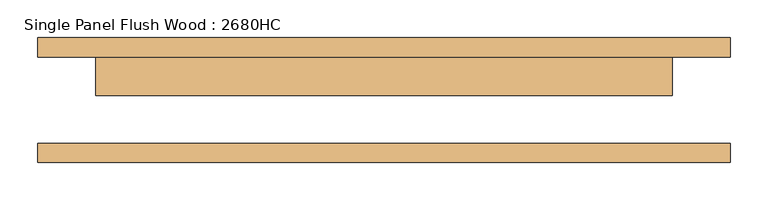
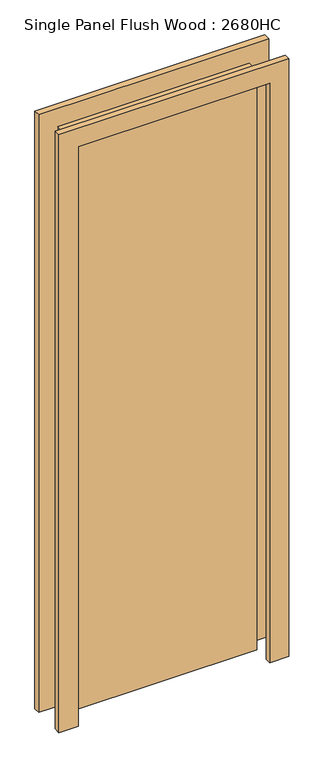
"""IFC4 building model written with IfcOpenShell, lengths in millimetres: door geometry, Single Panel Flush Wood : 2680HC."""

from ifc_helpers import new_model, si_unit, frame, origin, origin_with_axes, place, context, project, spatial, polyline, outline, extrude, source, transform, mapped, element, save


def single_panel_flush_wood_2680hc_c9b15bbd(model_context):
    return source(origin(), model_context, "Body", "SweptSolid", [
        extrude(outline(polyline([(2514.6, -457.2), (0.0, -457.2), (0.0, -381.0), (2438.4, -381.0), (2438.4, 381.0), (0.0, 381.0), (0.0, 457.2), (2514.6, 457.2), (2514.6, -457.2)])), frame((0.0, 57.15, 0.0), z_axis=(0.0, 1.0, 0.0), x_axis=(0.0, 0.0, 1.0)), (0.0, 0.0, 1.0), 25.4),
        extrude(outline(polyline([(2514.6, 457.2), (2514.6, -457.2), (0.0, -457.2), (0.0, -381.0), (2438.4, -381.0), (2438.4, 381.0), (0.0, 381.0), (0.0, 457.2), (2514.6, 457.2)])), frame((0.0, -82.55, 0.0), z_axis=(0.0, 1.0, 0.0), x_axis=(0.0, 0.0, 1.0)), (0.0, 0.0, 1.0), 25.4),
        extrude(outline(polyline([(381.0, 6.35), (-381.0, 6.35), (-381.0, 57.15), (381.0, 57.15), (381.0, 6.35)])), origin_with_axes(), (0.0, 0.0, 1.0), 2438.4),
    ])


if __name__ == "__main__":
    model = new_model("IFC4")
    model_context = context("Model", 3, world=origin())
    ifc_project = project(units=[si_unit("LENGTHUNIT", "METRE", prefix="MILLI")], contexts=[model_context])
    site = spatial("IfcSite", under=ifc_project)
    building = spatial("IfcBuilding", under=site)
    placement = place(None, origin())
    single_panel_flush_wood_2680hc_shape = single_panel_flush_wood_2680hc_c9b15bbd(model_context)
    element("IfcDoor", 1, ObjectType="Single Panel Flush Wood : 2680HC", at=placement, inside=building, context=model_context, shape_type="MappedRepresentation", body=[
        mapped(single_panel_flush_wood_2680hc_shape, transform((0.0, 0.0, 0.0), x_axis=(1.0, 0.0, 0.0), y_axis=(0.0, 1.0, 0.0), z_axis=(0.0, 0.0, 1.0))),
    ])
    save(model, "model.ifc")
